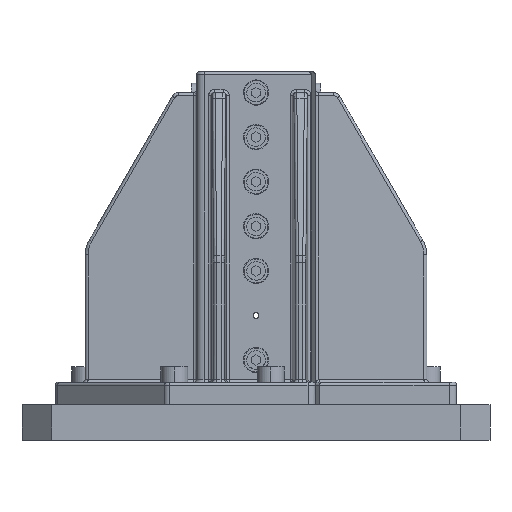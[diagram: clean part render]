
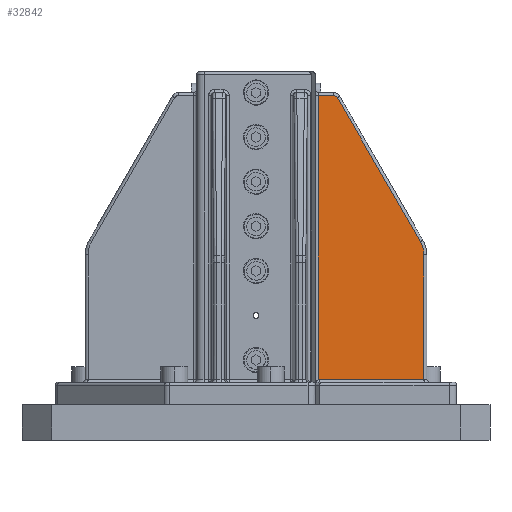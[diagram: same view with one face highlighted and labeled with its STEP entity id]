
A CAD part, left-side view. The second image highlights one B-rep face of the part: STEP entity #32842.
In plain terms, the highlighted planar face has unit normal (-0.999, -0.035, 0) as drawn and (0.999, 0.035, 0) by its records, which use the part's own axes.
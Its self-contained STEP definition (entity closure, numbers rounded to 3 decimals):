
#32800=AXIS2_PLACEMENT_3D('Plane Axis2P3D',#32797,#32798,#32799) ;
#30079=CARTESIAN_POINT('Vertex',(-34.913,-42.499,41.)) ;
#30092=CARTESIAN_POINT('Vertex',(-34.933,-41.93,40.978)) ;
#30096=CARTESIAN_POINT('Control Point',(-34.933,-41.93,40.978)) ;
#30097=CARTESIAN_POINT('Control Point',(-34.926,-42.119,40.992)) ;
#30098=CARTESIAN_POINT('Control Point',(-34.919,-42.309,41.)) ;
#30099=CARTESIAN_POINT('Control Point',(-34.913,-42.499,41.)) ;
#30120=CARTESIAN_POINT('Vertex',(-34.933,-41.93,232.)) ;
#30124=CARTESIAN_POINT('Control Point',(-34.933,-41.93,232.)) ;
#30125=CARTESIAN_POINT('Control Point',(-34.933,-41.93,40.978)) ;
#32751=CARTESIAN_POINT('Vertex',(-32.448,-113.07,41.)) ;
#32775=CARTESIAN_POINT('Control Point',(-34.913,-42.499,41.)) ;
#32776=CARTESIAN_POINT('Control Point',(-32.448,-113.07,41.)) ;
#32797=CARTESIAN_POINT('Axis2P3D Location',(-35.,-40.,136.5)) ;
#32803=CARTESIAN_POINT('Control Point',(-34.575,-52.183,232.)) ;
#32804=CARTESIAN_POINT('Control Point',(-34.514,-53.915,232.)) ;
#32805=CARTESIAN_POINT('Control Point',(-34.484,-54.781,230.5)) ;
#32806=CARTESIAN_POINT('Vertex',(-34.575,-52.183,232.)) ;
#32808=CARTESIAN_POINT('Vertex',(-34.484,-54.781,230.5)) ;
#32812=CARTESIAN_POINT('Control Point',(-34.484,-54.781,230.5)) ;
#32813=CARTESIAN_POINT('Control Point',(-32.533,-110.658,133.718)) ;
#32814=CARTESIAN_POINT('Vertex',(-32.533,-110.658,133.718)) ;
#32818=CARTESIAN_POINT('Control Point',(-32.533,-110.658,133.718)) ;
#32819=CARTESIAN_POINT('Control Point',(-32.448,-113.07,129.541)) ;
#32820=CARTESIAN_POINT('Control Point',(-32.448,-113.07,124.718)) ;
#32821=CARTESIAN_POINT('Vertex',(-32.448,-113.07,124.718)) ;
#32825=CARTESIAN_POINT('Control Point',(-32.448,-113.07,124.718)) ;
#32826=CARTESIAN_POINT('Control Point',(-32.448,-113.07,41.)) ;
#32829=CARTESIAN_POINT('Control Point',(-34.933,-41.93,232.)) ;
#32830=CARTESIAN_POINT('Control Point',(-34.575,-52.183,232.)) ;
#32798=DIRECTION('Axis2P3D Direction',(0.999,0.035,0.)) ;
#32799=DIRECTION('Axis2P3D XDirection',(0.,0.,-1.)) ;
#32833=ORIENTED_EDGE('',*,*,#32810,.T.) ;
#32834=ORIENTED_EDGE('',*,*,#32816,.T.) ;
#32835=ORIENTED_EDGE('',*,*,#32823,.T.) ;
#32836=ORIENTED_EDGE('',*,*,#32827,.T.) ;
#32837=ORIENTED_EDGE('',*,*,#32777,.F.) ;
#32838=ORIENTED_EDGE('',*,*,#30100,.F.) ;
#32839=ORIENTED_EDGE('',*,*,#30126,.F.) ;
#32840=ORIENTED_EDGE('',*,*,#32831,.T.) ;
#32842=ADVANCED_FACE('EGT_209_Winkel_f_Senkr_Anbind_8KT_Rohr_SW50.1',(#32841),#32801,.T.) ;
#30095=B_SPLINE_CURVE_WITH_KNOTS('',3,(#30096,#30097,#30098,#30099),.UNSPECIFIED.,.F.,.U.,(4,4),(-0.076,0.),.UNSPECIFIED.) ;
#30123=B_SPLINE_CURVE_WITH_KNOTS('',1,(#30124,#30125),.UNSPECIFIED.,.F.,.U.,(2,2),(0.,1.),.UNSPECIFIED.) ;
#32774=B_SPLINE_CURVE_WITH_KNOTS('',1,(#32775,#32776),.UNSPECIFIED.,.F.,.U.,(2,2),(0.,1.),.UNSPECIFIED.) ;
#32811=B_SPLINE_CURVE_WITH_KNOTS('',1,(#32812,#32813),.UNSPECIFIED.,.F.,.U.,(2,2),(0.,111.771),.UNSPECIFIED.) ;
#32824=B_SPLINE_CURVE_WITH_KNOTS('',1,(#32825,#32826),.UNSPECIFIED.,.F.,.U.,(2,2),(0.,83.718),.UNSPECIFIED.) ;
#32828=B_SPLINE_CURVE_WITH_KNOTS('',1,(#32829,#32830),.UNSPECIFIED.,.F.,.U.,(2,2),(0.,10.259),.UNSPECIFIED.) ;
#30100=EDGE_CURVE('',#30093,#30080,#30095,.T.) ;
#30126=EDGE_CURVE('',#30121,#30093,#30123,.T.) ;
#32777=EDGE_CURVE('',#30080,#32752,#32774,.T.) ;
#32810=EDGE_CURVE('',#32807,#32809,#32802,.T.) ;
#32816=EDGE_CURVE('',#32809,#32815,#32811,.T.) ;
#32823=EDGE_CURVE('',#32815,#32822,#32817,.T.) ;
#32827=EDGE_CURVE('',#32822,#32752,#32824,.T.) ;
#32831=EDGE_CURVE('',#30121,#32807,#32828,.T.) ;
#32832=EDGE_LOOP('',(#32833,#32834,#32835,#32836,#32837,#32838,#32839,#32840)) ;
#32841=FACE_OUTER_BOUND('',#32832,.T.) ;
#32801=PLANE('',#32800) ;
#30080=VERTEX_POINT('',#30079) ;
#30093=VERTEX_POINT('',#30092) ;
#30121=VERTEX_POINT('',#30120) ;
#32752=VERTEX_POINT('',#32751) ;
#32807=VERTEX_POINT('',#32806) ;
#32809=VERTEX_POINT('',#32808) ;
#32815=VERTEX_POINT('',#32814) ;
#32822=VERTEX_POINT('',#32821) ;
#32802=(BOUNDED_CURVE()B_SPLINE_CURVE(2,(#32803,#32804,#32805),.UNSPECIFIED.,.F.,.U.)B_SPLINE_CURVE_WITH_KNOTS((3,3),(0.,3.465),.UNSPECIFIED.)CURVE()GEOMETRIC_REPRESENTATION_ITEM()RATIONAL_B_SPLINE_CURVE((1.,0.866,1.))REPRESENTATION_ITEM('')) ;
#32817=(BOUNDED_CURVE()B_SPLINE_CURVE(2,(#32818,#32819,#32820),.UNSPECIFIED.,.F.,.U.)B_SPLINE_CURVE_WITH_KNOTS((3,3),(0.,9.647),.UNSPECIFIED.)CURVE()GEOMETRIC_REPRESENTATION_ITEM()RATIONAL_B_SPLINE_CURVE((1.,0.966,1.))REPRESENTATION_ITEM('')) ;
